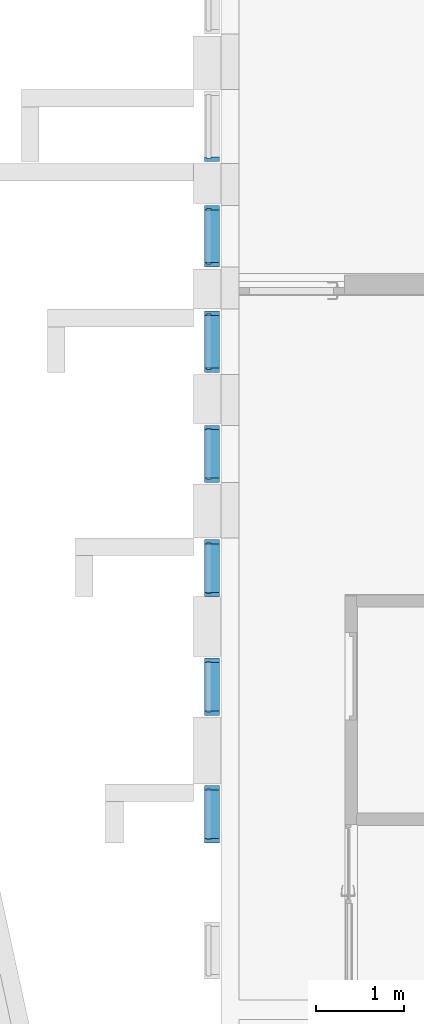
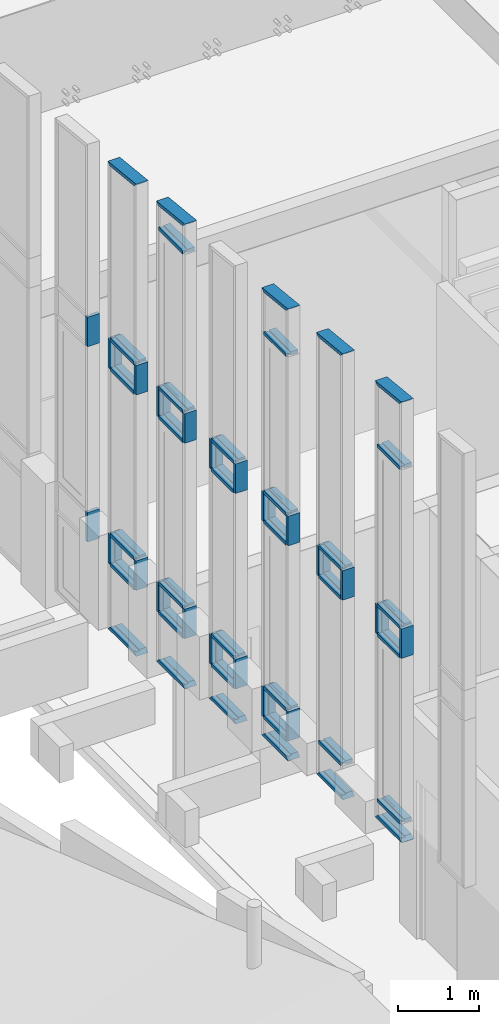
# One storey, part 34 of 246: 58 members, 7 elements without a shape of their own.
"""IFC2X3 building model written with IfcOpenShell, lengths in millimetres."""

from ifc_helpers import new_model, entity, si_unit, converted_unit, derived_unit, money_unit, direction, frame, origin_with_axes, place, context, subcontext, project, spatial, faceted_brep, source, transform, mapped, material, type_object, element, aggregate, save


model = new_model("IFC2X3")

# Units and contexts
model_context = context("Model", 3, precision=0.01, world=origin_with_axes(), true_north=direction((0.0, 1.0)))
body_context = subcontext(model_context, "Body", "Model", "MODEL_VIEW")
ifc_project = project(units=[si_unit("LENGTHUNIT", "METRE", prefix="MILLI"), si_unit("AREAUNIT", "SQUARE_METRE"), si_unit("VOLUMEUNIT", "CUBIC_METRE"), converted_unit("PLANEANGLEUNIT", "DEGREE", entity("IfcPlaneAngleMeasure", 0.0174532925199), si_unit("PLANEANGLEUNIT", "RADIAN"), dimensions=[0, 0, 0, 0, 0, 0, 0]), si_unit("SOLIDANGLEUNIT", "STERADIAN"), money_unit("EUR"), converted_unit("TIMEUNIT", "Year", entity("IfcTimeMeasure", 31556926.0), si_unit("TIMEUNIT", "SECOND"), dimensions=[0, 0, 1, 0, 0, 0, 0]), si_unit("MASSUNIT", "GRAM", prefix="KILO"), si_unit("THERMODYNAMICTEMPERATUREUNIT", "DEGREE_CELSIUS"), si_unit("LUMINOUSINTENSITYUNIT", "LUMEN"), si_unit("ENERGYUNIT", "JOULE", prefix="MEGA"), derived_unit("THERMALCONDUCTANCEUNIT", [(si_unit("POWERUNIT", "WATT"), 1), (si_unit("LENGTHUNIT", "METRE"), -1), (si_unit("THERMODYNAMICTEMPERATUREUNIT", "KELVIN"), -1)]), derived_unit("SPECIFICHEATCAPACITYUNIT", [(si_unit("ENERGYUNIT", "JOULE"), 1), (si_unit("MASSUNIT", "GRAM", prefix="KILO"), -1), (si_unit("THERMODYNAMICTEMPERATUREUNIT", "KELVIN"), -1)]), derived_unit("MASSDENSITYUNIT", [(si_unit("MASSUNIT", "GRAM", prefix="KILO"), 1), (si_unit("VOLUMEUNIT", "CUBIC_METRE"), -1)])], contexts=[model_context])

# Site, building, storey
site_placement = place(None, origin_with_axes())
site = spatial("IfcSite", under=ifc_project, at=site_placement, Name="L.Koidula tn 11b", CompositionType="ELEMENT")
building_placement = place(site_placement, origin_with_axes())
building = spatial("IfcBuilding", under=site, at=building_placement, Name="Rakvere Riigigümnaasium", CompositionType="ELEMENT")
storey_placement = place(building_placement, origin_with_axes())
storey = spatial("IfcBuildingStorey", under=building, at=storey_placement, Name="1.korrus 0,00", CompositionType="ELEMENT", Elevation=0.0)

# Curtain wall, members
curtain_wall_type = type_object("IfcCurtainWallType", Name="Curtain Wall Type", PredefinedType="NOTDEFINED")
curtain_wall_1_placement = place(storey_placement, frame((35156.0871538, 27260.4554897, 2070.0), z_axis=(0.0, 0.0, 1.0), x_axis=(1.0, 0.0, 0.0)))
curtain_wall_1 = element("IfcCurtainWall", 1, at=curtain_wall_1_placement, inside=storey, type_object=curtain_wall_type, Name="KLF-04-03")
ifc_material = material(Name="Alumiiniumprofiil (RAL 7021)")
member_type_1 = type_object("IfcMemberType", Name="Boundary Frame 50 x 170", PredefinedType="MULLION")
shared_shape_1 = source(origin_with_axes(), body_context, "Body", "Brep", [
    faceted_brep([(37.0, -26.0, 445.000001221), (37.0, 26.0, 445.000001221), (50.0, 26.0, 445.000001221), (50.0, 46.0, 445.000001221), (0.0, 46.0, 445.000001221), (0.0, -124.0, 445.000001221), (50.0, -124.0, 445.000001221), (50.0, -26.0, 445.000001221), (37.0, -26.0, -1.22099402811e-06), (37.0, 26.0, -1.22099402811e-06), (50.0, 26.0, -1.22099405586e-06), (50.0, 46.0, -1.22099405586e-06), (0.0, 46.0, -1.22099405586e-06), (0.0, -124.0, -1.22099405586e-06), (50.0, -124.0, -1.22099405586e-06), (50.0, -26.0, -1.22099405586e-06)], [[[0, 1, 2, 3, 4, 5, 6, 7]], [[1, 0, 8, 9]], [[10, 2, 1, 9]], [[2, 10, 11, 3]], [[12, 4, 3, 11]], [[13, 5, 4, 12]], [[14, 6, 5, 13]], [[15, 7, 6, 14]], [[0, 7, 15, 8]], [[8, 15, 14, 13, 12, 11, 10, 9]]]),
])
member_1_placement = place(curtain_wall_1_placement, frame((0.0, -399.999995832, 4175.00005204), z_axis=(0.0, -7.58073254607e-09, 1.0), x_axis=(0.0, 1.0, 7.58073254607e-09)))
member_1 = element("IfcMember", 2, at=member_1_placement, type_object=member_type_1, material=ifc_material, Name="KLF-04-45-Profiilid", ObjectType="MULLION", context=body_context, shape_type="MappedRepresentation", body=[
    mapped(shared_shape_1, transform((0.0, 0.0, 0.0))),
])
member_2_placement = place(curtain_wall_1_placement, frame((0.0, -399.999995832, 1230.00005204), z_axis=(0.0, 0.0, 1.0), x_axis=(0.0, 1.0, 0.0)))
member_2 = element("IfcMember", 3, at=member_2_placement, type_object=member_type_1, material=ifc_material, Name="KLF-04-43-Profiilid", ObjectType="MULLION", context=body_context, shape_type="MappedRepresentation", body=[
    mapped(shared_shape_1, transform((0.0, 0.0, 0.0))),
])
aggregate(curtain_wall_1, [member_1, member_2])

curtain_wall_2_placement = place(storey_placement, frame((35156.0871538, 22235.4555038, 3003.0), z_axis=(0.0, 0.0, 1.0), x_axis=(1.0, 0.0, 0.0)))
curtain_wall_2 = element("IfcCurtainWall", 4, at=curtain_wall_2_placement, inside=storey, type_object=curtain_wall_type, Name="KLF-04-07")
member_3_placement = place(curtain_wall_2_placement, frame((0.0, 325.000046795, 742.00007113), z_axis=(0.0, 0.0, -1.0), x_axis=(0.0, -1.0, 0.0)))
member_3 = element("IfcMember", 5, at=member_3_placement, type_object=member_type_1, material=ifc_material, Name="KLF-04-36-Profiilid", ObjectType="MULLION", context=body_context, shape_type="MappedRepresentation", body=[
    mapped(shared_shape_1, transform((0.0, 0.0, 0.0))),
])
member_4_placement = place(curtain_wall_2_placement, frame((0.0, 324.999942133, 3687.00007113), z_axis=(0.0, 0.0, -1.0), x_axis=(0.0, -1.0, 0.0)))
member_4 = element("IfcMember", 6, at=member_4_placement, type_object=member_type_1, material=ifc_material, Name="KLF-04-34-Profiilid", ObjectType="MULLION", context=body_context, shape_type="MappedRepresentation", body=[
    mapped(shared_shape_1, transform((0.0, 0.0, 0.0))),
])
member_5_placement = place(curtain_wall_2_placement, frame((0.0, -325.000024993, 3242.00007113), z_axis=(0.0, 2.27401187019e-07, 1.0), x_axis=(0.0, 1.0, -2.27401187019e-07)))
member_5 = element("IfcMember", 7, at=member_5_placement, type_object=member_type_1, material=ifc_material, Name="KLF-04-28-Profiilid", ObjectType="MULLION", context=body_context, shape_type="MappedRepresentation", body=[
    mapped(shared_shape_1, transform((0.0, 0.0, 0.0))),
])
member_6_placement = place(curtain_wall_2_placement, frame((0.0, -325.000024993, 297.00007113), z_axis=(0.0, 0.0, 1.0), x_axis=(0.0, 1.0, 0.0)))
member_6 = element("IfcMember", 8, at=member_6_placement, type_object=member_type_1, material=ifc_material, Name="KLF-04-26-Profiilid", ObjectType="MULLION", context=body_context, shape_type="MappedRepresentation", body=[
    mapped(shared_shape_1, transform((0.0, 0.0, 0.0))),
])

curtain_wall_3_placement = place(storey_placement, frame((35156.0871538, 20885.4555022, 3234.99992887), z_axis=(0.0, 0.0, 1.0), x_axis=(1.0, 0.0, 0.0)))
curtain_wall_3 = element("IfcCurtainWall", 9, at=curtain_wall_3_placement, inside=storey, type_object=curtain_wall_type, Name="KLF-04-08")
member_7_placement = place(curtain_wall_3_placement, frame((0.0, 324.999978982, 3455.00007113), z_axis=(0.0, 0.0, -1.0), x_axis=(0.0, -1.0, 0.0)))
member_7 = element("IfcMember", 10, at=member_7_placement, type_object=member_type_1, material=ifc_material, Name="KLF-04-57-Profiilid", ObjectType="MULLION", context=body_context, shape_type="MappedRepresentation", body=[
    mapped(shared_shape_1, transform((0.0, 0.0, 0.0))),
])
member_8_placement = place(curtain_wall_3_placement, frame((0.0, -325.000001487, 3010.00007113), z_axis=(0.0, 1.011452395e-07, 1.0), x_axis=(0.0, 1.0, -1.011452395e-07)))
member_8 = element("IfcMember", 11, at=member_8_placement, type_object=member_type_1, material=ifc_material, Name="KLF-04-53-Profiilid", ObjectType="MULLION", context=body_context, shape_type="MappedRepresentation", body=[
    mapped(shared_shape_1, transform((0.0, 0.0, 0.0))),
])

curtain_wall_4_placement = place(storey_placement, frame((35156.0871538, 19435.4554934, 3468.0), z_axis=(0.0, 0.0, 1.0), x_axis=(1.0, 0.0, 0.0)))
curtain_wall_4 = element("IfcCurtainWall", 12, at=curtain_wall_4_placement, inside=storey, type_object=curtain_wall_type, Name="KLF-04-09")
member_9_placement = place(curtain_wall_4_placement, frame((0.0, 325.0000746, 3222.00007113), z_axis=(0.0, 0.0, -1.0), x_axis=(0.0, -1.0, 0.0)))
member_9 = element("IfcMember", 13, at=member_9_placement, type_object=member_type_1, material=ifc_material, Name="KLF-04-07-Profiilid", ObjectType="MULLION", context=body_context, shape_type="MappedRepresentation", body=[
    mapped(shared_shape_1, transform((0.0, 0.0, 0.0))),
])
member_10_placement = place(curtain_wall_4_placement, frame((0.0, -325.000027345, 2777.00007113), z_axis=(0.0, 0.0, 1.0), x_axis=(0.0, 1.0, 0.0)))
member_10 = element("IfcMember", 14, at=member_10_placement, type_object=member_type_1, material=ifc_material, Name="KLF-04-01-Profiilid", ObjectType="MULLION", context=body_context, shape_type="MappedRepresentation", body=[
    mapped(shared_shape_1, transform((0.0, 0.0, 0.0))),
])

curtain_wall_5_placement = place(storey_placement, frame((35156.0871538, 26010.4555274, 2305.0), z_axis=(0.0, 0.0, 1.0), x_axis=(1.0, 0.0, 0.0)))
curtain_wall_5 = element("IfcCurtainWall", 15, at=curtain_wall_5_placement, inside=storey, type_object=curtain_wall_type, Name="KLF-04-04")
member_11_placement = place(curtain_wall_5_placement, frame((0.0, 349.999977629, 1440.00005204), z_axis=(0.0, 0.0, -1.0), x_axis=(0.0, -1.0, 0.0)))
member_11 = element("IfcMember", 16, at=member_11_placement, type_object=member_type_1, material=ifc_material, Name="KLF-04-64-Profiilid", ObjectType="MULLION", context=body_context, shape_type="MappedRepresentation", body=[
    mapped(shared_shape_1, transform((0.0, 0.0, 0.0))),
])
member_12_placement = place(curtain_wall_5_placement, frame((0.0, 349.999977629, 4385.00005204), z_axis=(0.0, 0.0, -1.0), x_axis=(0.0, -1.0, 0.0)))
member_12 = element("IfcMember", 17, at=member_12_placement, type_object=member_type_1, material=ifc_material, Name="KLF-04-62-Profiilid", ObjectType="MULLION", context=body_context, shape_type="MappedRepresentation", body=[
    mapped(shared_shape_1, transform((0.0, 0.0, 0.0))),
])
member_13_placement = place(curtain_wall_5_placement, frame((0.0, -349.999924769, 3940.00005204), z_axis=(0.0, 1.22352297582e-07, 1.0), x_axis=(0.0, 1.0, -1.22352297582e-07)))
member_13 = element("IfcMember", 18, at=member_13_placement, type_object=member_type_1, material=ifc_material, Name="KLF-04-58-Profiilid", ObjectType="MULLION", context=body_context, shape_type="MappedRepresentation", body=[
    mapped(shared_shape_1, transform((0.0, 0.0, 0.0))),
])
member_14_placement = place(curtain_wall_5_placement, frame((0.0, -350.00003049, 995.00005204), z_axis=(0.0, 0.0, 1.0), x_axis=(0.0, 1.0, 0.0)))
member_14 = element("IfcMember", 19, at=member_14_placement, type_object=member_type_1, material=ifc_material, Name="KLF-04-56-Profiilid", ObjectType="MULLION", context=body_context, shape_type="MappedRepresentation", body=[
    mapped(shared_shape_1, transform((0.0, 0.0, 0.0))),
])

curtain_wall_6_placement = place(storey_placement, frame((35156.0871538, 24810.4554726, 2540.0), z_axis=(0.0, 0.0, 1.0), x_axis=(1.0, 0.0, 0.0)))
curtain_wall_6 = element("IfcCurtainWall", 20, at=curtain_wall_6_placement, inside=storey, type_object=curtain_wall_type, Name="KLF-04-05")
member_15_placement = place(curtain_wall_6_placement, frame((0.0, 350.000000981, 1205.00005204), z_axis=(0.0, 0.0, -1.0), x_axis=(0.0, -1.0, 0.0)))
member_15 = element("IfcMember", 21, at=member_15_placement, type_object=member_type_1, material=ifc_material, Name="KLF-04-61-Profiilid", ObjectType="MULLION", context=body_context, shape_type="MappedRepresentation", body=[
    mapped(shared_shape_1, transform((0.0, 0.0, 0.0))),
])
member_16_placement = place(curtain_wall_6_placement, frame((0.0, 350.000000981, 4150.00005204), z_axis=(0.0, 0.0, -1.0), x_axis=(0.0, -1.0, 0.0)))
member_16 = element("IfcMember", 22, at=member_16_placement, type_object=member_type_1, material=ifc_material, Name="KLF-04-59-Profiilid", ObjectType="MULLION", context=body_context, shape_type="MappedRepresentation", body=[
    mapped(shared_shape_1, transform((0.0, 0.0, 0.0))),
])
member_17_placement = place(curtain_wall_6_placement, frame((0.0, -350.000000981, 3705.00005204), z_axis=(0.0, 0.0, 1.0), x_axis=(0.0, 1.0, 0.0)))
member_17 = element("IfcMember", 23, at=member_17_placement, type_object=member_type_1, material=ifc_material, Name="KLF-04-53-Profiilid", ObjectType="MULLION", context=body_context, shape_type="MappedRepresentation", body=[
    mapped(shared_shape_1, transform((0.0, 0.0, 0.0))),
])
member_18_placement = place(curtain_wall_6_placement, frame((0.0, -350.000000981, 760.00005204), z_axis=(0.0, 0.0, 1.0), x_axis=(0.0, 1.0, 0.0)))
member_18 = element("IfcMember", 24, at=member_18_placement, type_object=member_type_1, material=ifc_material, Name="KLF-04-51-Profiilid", ObjectType="MULLION", context=body_context, shape_type="MappedRepresentation", body=[
    mapped(shared_shape_1, transform((0.0, 0.0, 0.0))),
])

curtain_wall_7_placement = place(storey_placement, frame((35156.0871538, 23535.4555553, 2770.0), z_axis=(0.0, 0.0, 1.0), x_axis=(1.0, 0.0, 0.0)))
curtain_wall_7 = element("IfcCurtainWall", 25, at=curtain_wall_7_placement, inside=storey, type_object=curtain_wall_type, Name="KLF-04-06")
member_19_placement = place(curtain_wall_7_placement, frame((0.0, 324.999949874, 975.00005204), z_axis=(0.0, 0.0, -1.0), x_axis=(0.0, -1.0, 0.0)))
member_19 = element("IfcMember", 26, at=member_19_placement, type_object=member_type_1, material=ifc_material, Name="KLF-04-54-Profiilid", ObjectType="MULLION", context=body_context, shape_type="MappedRepresentation", body=[
    mapped(shared_shape_1, transform((0.0, 0.0, 0.0))),
])
member_20_placement = place(curtain_wall_7_placement, frame((0.0, 324.999949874, 3920.00005204), z_axis=(0.0, 0.0, -1.0), x_axis=(0.0, -1.0, 0.0)))
member_20 = element("IfcMember", 27, at=member_20_placement, type_object=member_type_1, material=ifc_material, Name="KLF-04-52-Profiilid", ObjectType="MULLION", context=body_context, shape_type="MappedRepresentation", body=[
    mapped(shared_shape_1, transform((0.0, 0.0, 0.0))),
])
member_21_placement = place(curtain_wall_7_placement, frame((0.0, -324.999949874, 3475.00005204), z_axis=(0.0, -1.01655736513e-07, 1.0), x_axis=(0.0, 1.0, 1.01655736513e-07)))
member_21 = element("IfcMember", 28, at=member_21_placement, type_object=member_type_1, material=ifc_material, Name="KLF-04-48-Profiilid", ObjectType="MULLION", context=body_context, shape_type="MappedRepresentation", body=[
    mapped(shared_shape_1, transform((0.0, 0.0, 0.0))),
])
member_22_placement = place(curtain_wall_7_placement, frame((0.0, -324.999949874, 530.00005204), z_axis=(0.0, 0.0, 1.0), x_axis=(0.0, 1.0, 0.0)))
member_22 = element("IfcMember", 29, at=member_22_placement, type_object=member_type_1, material=ifc_material, Name="KLF-04-46-Profiilid", ObjectType="MULLION", context=body_context, shape_type="MappedRepresentation", body=[
    mapped(shared_shape_1, transform((0.0, 0.0, 0.0))),
])

# Member
member_type_2 = type_object("IfcMemberType", Name="Transom Frame 50 x 170", PredefinedType="MULLION")
shared_shape_2 = source(origin_with_axes(), body_context, "Body", "Brep", [
    faceted_brep([(-12.0, -26.0, 599.999891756), (-25.0, -26.0, 599.999891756), (-25.0, -124.0, 599.999887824), (25.0, -124.0, 599.999887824), (25.0, -26.0, 599.999891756), (12.0, -26.0, 599.999891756), (12.0, 26.0, 599.999893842), (25.0, 26.0, 599.999893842), (25.0, 46.0, 599.999894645), (-25.0, 46.0, 599.999894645), (-25.0, 26.0, 599.999893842), (-12.0, 26.0, 599.999893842), (-12.0, -26.0, 50.0000002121), (-25.0, -26.0, 50.0000002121), (-25.0, -124.0, 50.0000010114), (25.0, -124.0, 50.0000010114), (25.0, -26.0, 50.0000002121), (12.0, -26.0, 50.0000002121), (12.0, 26.0, 49.9999997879), (25.0, 26.0, 49.9999997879), (25.0, 46.0, 49.9999996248), (-25.0, 46.0, 49.9999996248), (-25.0, 26.0, 49.9999997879), (-12.0, 26.0, 49.9999997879)], [[[0, 1, 2, 3, 4, 5, 6, 7, 8, 9, 10, 11]], [[1, 0, 12, 13]], [[1, 13, 14, 2]], [[2, 14, 15, 3]], [[4, 3, 15, 16]], [[4, 16, 17, 5]], [[5, 17, 18, 6]], [[7, 6, 18, 19]], [[19, 20, 8, 7]], [[8, 20, 21, 9]], [[22, 10, 9, 21]], [[11, 10, 22, 23]], [[0, 11, 23, 12]], [[23, 22, 21, 20, 19, 18, 17, 16, 15, 14, 13, 12]]]),
])
member_23_placement = place(curtain_wall_2_placement, frame((0.0, 324.999942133, 6087.00007113), z_axis=(0.0, -1.0, 0.0), x_axis=(0.0, 0.0, 1.0)))
member_23 = element("IfcMember", 30, at=member_23_placement, type_object=member_type_2, material=ifc_material, Name="KLF-04-07-Profiilid", ObjectType="MULLION", context=body_context, shape_type="MappedRepresentation", body=[
    mapped(shared_shape_2, transform((0.0, 0.0, 0.0))),
])

member_24_placement = place(curtain_wall_2_placement, frame((0.0, 324.999942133, 3687.00007113), z_axis=(0.0, -1.0, 0.0), x_axis=(0.0, 0.0, 1.0)))
member_24 = element("IfcMember", 31, at=member_24_placement, type_object=member_type_2, material=ifc_material, Name="KLF-04-07-Profiilid", ObjectType="MULLION", context=body_context, shape_type="MappedRepresentation", body=[
    mapped(shared_shape_2, transform((0.0, 0.0, 0.0))),
])

member_25_placement = place(curtain_wall_2_placement, frame((0.0, 325.000046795, 742.00007113), z_axis=(0.0, -1.0, 0.0), x_axis=(0.0, 0.0, 1.0)))
member_25 = element("IfcMember", 32, at=member_25_placement, type_object=member_type_2, material=ifc_material, Name="KLF-04-41-Profiilid", ObjectType="MULLION", context=body_context, shape_type="MappedRepresentation", body=[
    mapped(shared_shape_2, transform((0.0, 0.0, 0.0))),
])

member_26_placement = place(curtain_wall_2_placement, frame((0.0, 325.000046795, 297.00007113), z_axis=(0.0, -1.0, 0.0), x_axis=(0.0, 0.0, 1.0)))
member_26 = element("IfcMember", 33, at=member_26_placement, type_object=member_type_2, material=ifc_material, Name="KLF-04-42-Profiilid", ObjectType="MULLION", context=body_context, shape_type="MappedRepresentation", body=[
    mapped(shared_shape_2, transform((0.0, 0.0, 0.0))),
])

member_27_placement = place(curtain_wall_2_placement, frame((0.0, 324.999942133, 3242.00007113), z_axis=(0.0, -1.0, 0.0), x_axis=(0.0, 0.0, 1.0)))
member_27 = element("IfcMember", 34, at=member_27_placement, type_object=member_type_2, material=ifc_material, Name="KLF-04-10-Profiilid", ObjectType="MULLION", context=body_context, shape_type="MappedRepresentation", body=[
    mapped(shared_shape_2, transform((0.0, 0.0, 0.0))),
])

member_28_placement = place(curtain_wall_3_placement, frame((0.0, 324.999978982, 3455.00007113), z_axis=(0.0, -1.0, 0.0), x_axis=(0.0, 0.0, 1.0)))
member_28 = element("IfcMember", 35, at=member_28_placement, type_object=member_type_2, material=ifc_material, Name="KLF-04-08-Profiilid", ObjectType="MULLION", context=body_context, shape_type="MappedRepresentation", body=[
    mapped(shared_shape_2, transform((0.0, 0.0, 0.0))),
])

member_29_placement = place(curtain_wall_3_placement, frame((0.0, 324.999978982, 3010.00007113), z_axis=(0.0, -1.0, 0.0), x_axis=(0.0, 0.0, 1.0)))
member_29 = element("IfcMember", 36, at=member_29_placement, type_object=member_type_2, material=ifc_material, Name="KLF-04-08-Profiilid", ObjectType="MULLION", context=body_context, shape_type="MappedRepresentation", body=[
    mapped(shared_shape_2, transform((0.0, 0.0, 0.0))),
])

member_30_placement = place(curtain_wall_3_placement, frame((0.0, 324.999978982, 510.00007113), z_axis=(0.0, -1.0, 0.0), x_axis=(0.0, 0.0, 1.0)))
member_30 = element("IfcMember", 37, at=member_30_placement, type_object=member_type_2, material=ifc_material, Name="KLF-04-08-Profiilid", ObjectType="MULLION", context=body_context, shape_type="MappedRepresentation", body=[
    mapped(shared_shape_2, transform((0.0, 0.0, 0.0))),
])

member_31_placement = place(curtain_wall_4_placement, frame((0.0, 325.0000746, 5622.00007113), z_axis=(0.0, -1.0, 0.0), x_axis=(0.0, 0.0, 1.0)))
member_31 = element("IfcMember", 38, at=member_31_placement, type_object=member_type_2, material=ifc_material, Name="KLF-04-09-Profiilid", ObjectType="MULLION", context=body_context, shape_type="MappedRepresentation", body=[
    mapped(shared_shape_2, transform((0.0, 0.0, 0.0))),
])

member_32_placement = place(curtain_wall_4_placement, frame((0.0, 325.0000746, 2777.00007113), z_axis=(0.0, -1.0, 0.0), x_axis=(0.0, 0.0, 1.0)))
member_32 = element("IfcMember", 39, at=member_32_placement, type_object=member_type_2, material=ifc_material, Name="KLF-04-09-Profiilid", ObjectType="MULLION", context=body_context, shape_type="MappedRepresentation", body=[
    mapped(shared_shape_2, transform((0.0, 0.0, 0.0))),
])

member_33_placement = place(curtain_wall_4_placement, frame((0.0, 325.0000746, 277.00007113), z_axis=(0.0, -1.0, 0.0), x_axis=(0.0, 0.0, 1.0)))
member_33 = element("IfcMember", 40, at=member_33_placement, type_object=member_type_2, material=ifc_material, Name="KLF-04-09-Profiilid", ObjectType="MULLION", context=body_context, shape_type="MappedRepresentation", body=[
    mapped(shared_shape_2, transform((0.0, 0.0, 0.0))),
])

member_34_placement = place(curtain_wall_4_placement, frame((0.0, 325.0000746, 3222.00007113), z_axis=(0.0, -1.0, 0.0), x_axis=(0.0, 0.0, 1.0)))
member_34 = element("IfcMember", 41, at=member_34_placement, type_object=member_type_2, material=ifc_material, Name="KLF-04-76-Profiilid", ObjectType="MULLION", context=body_context, shape_type="MappedRepresentation", body=[
    mapped(shared_shape_2, transform((0.0, 0.0, 0.0))),
])

member_35_placement = place(curtain_wall_7_placement, frame((0.0, 324.999949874, 3920.00005204), z_axis=(0.0, -1.0, 0.0), x_axis=(0.0, 0.0, 1.0)))
member_35 = element("IfcMember", 42, at=member_35_placement, type_object=member_type_2, material=ifc_material, Name="KLF-04-06-Profiilid", ObjectType="MULLION", context=body_context, shape_type="MappedRepresentation", body=[
    mapped(shared_shape_2, transform((0.0, 0.0, 0.0))),
])

member_36_placement = place(curtain_wall_7_placement, frame((0.0, 324.999949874, 975.00005204), z_axis=(0.0, -1.0, 0.0), x_axis=(0.0, 0.0, 1.0)))
member_36 = element("IfcMember", 43, at=member_36_placement, type_object=member_type_2, material=ifc_material, Name="KLF-04-06-Profiilid", ObjectType="MULLION", context=body_context, shape_type="MappedRepresentation", body=[
    mapped(shared_shape_2, transform((0.0, 0.0, 0.0))),
])

member_37_placement = place(curtain_wall_7_placement, frame((0.0, 324.999949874, 530.00005204), z_axis=(0.0, -1.0, 0.0), x_axis=(0.0, 0.0, 1.0)))
member_37 = element("IfcMember", 44, at=member_37_placement, type_object=member_type_2, material=ifc_material, Name="KLF-04-06-Profiilid", ObjectType="MULLION", context=body_context, shape_type="MappedRepresentation", body=[
    mapped(shared_shape_2, transform((0.0, 0.0, 0.0))),
])

member_38_placement = place(curtain_wall_7_placement, frame((0.0, 324.999949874, 3475.00005204), z_axis=(0.0, -1.0, 0.0), x_axis=(0.0, 0.0, 1.0)))
member_38 = element("IfcMember", 45, at=member_38_placement, type_object=member_type_2, material=ifc_material, Name="KLF-04-29-Profiilid", ObjectType="MULLION", context=body_context, shape_type="MappedRepresentation", body=[
    mapped(shared_shape_2, transform((0.0, 0.0, 0.0))),
])

shared_shape_3 = source(origin_with_axes(), body_context, "Body", "Brep", [
    faceted_brep([(-12.0, -26.0, 649.99984477), (-25.0, -26.0, 649.99984477), (-25.0, -124.0, 649.999832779), (25.0, -124.0, 649.999832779), (25.0, -26.0, 649.99984477), (12.0, -26.0, 649.99984477), (12.0, 26.0, 649.999851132), (25.0, 26.0, 649.999851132), (25.0, 46.0, 649.999853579), (-25.0, 46.0, 649.999853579), (-25.0, 26.0, 649.999851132), (-12.0, 26.0, 649.999851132), (-12.0, -26.0, 50.0), (-25.0, -26.0, 50.0), (-25.0, -124.0, 50.0), (25.0, -124.0, 50.0), (25.0, -26.0, 50.0), (12.0, -26.0, 50.0), (12.0, 26.0, 50.0), (25.0, 26.0, 50.0), (25.0, 46.0, 50.0), (-25.0, 46.0, 50.0), (-25.0, 26.0, 50.0), (-12.0, 26.0, 50.0)], [[[0, 1, 2, 3, 4, 5, 6, 7, 8, 9, 10, 11]], [[1, 0, 12, 13]], [[1, 13, 14, 2]], [[2, 14, 15, 3]], [[4, 3, 15, 16]], [[4, 16, 17, 5]], [[5, 17, 18, 6]], [[7, 6, 18, 19]], [[19, 20, 8, 7]], [[8, 20, 21, 9]], [[22, 10, 9, 21]], [[11, 10, 22, 23]], [[0, 11, 23, 12]], [[23, 22, 21, 20, 19, 18, 17, 16, 15, 14, 13, 12]]]),
])
member_39_placement = place(curtain_wall_5_placement, frame((0.0, 349.999977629, 4385.00005204), z_axis=(0.0, -1.0, 0.0), x_axis=(0.0, 0.0, 1.0)))
member_39 = element("IfcMember", 46, at=member_39_placement, type_object=member_type_2, material=ifc_material, Name="KLF-04-04-Profiilid", ObjectType="MULLION", context=body_context, shape_type="MappedRepresentation", body=[
    mapped(shared_shape_3, transform((0.0, 0.0, 0.0))),
])

member_40_placement = place(curtain_wall_5_placement, frame((0.0, 349.999977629, 995.00005204), z_axis=(0.0, -1.0, 0.0), x_axis=(0.0, 0.0, 1.0)))
member_40 = element("IfcMember", 47, at=member_40_placement, type_object=member_type_2, material=ifc_material, Name="KLF-04-17-Profiilid", ObjectType="MULLION", context=body_context, shape_type="MappedRepresentation", body=[
    mapped(shared_shape_3, transform((0.0, 0.0, 0.0))),
])

member_41_placement = place(curtain_wall_5_placement, frame((0.0, 349.999977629, 3940.00005204), z_axis=(0.0, -1.0, 0.0), x_axis=(0.0, 0.0, 1.0)))
member_41 = element("IfcMember", 48, at=member_41_placement, type_object=member_type_2, material=ifc_material, Name="KLF-04-42-Profiilid", ObjectType="MULLION", context=body_context, shape_type="MappedRepresentation", body=[
    mapped(shared_shape_3, transform((0.0, 0.0, 0.0))),
])

member_42_placement = place(curtain_wall_5_placement, frame((0.0, 349.999977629, 1440.00005204), z_axis=(0.0, -1.0, 0.0), x_axis=(0.0, 0.0, 1.0)))
member_42 = element("IfcMember", 49, at=member_42_placement, type_object=member_type_2, material=ifc_material, Name="KLF-04-43-Profiilid", ObjectType="MULLION", context=body_context, shape_type="MappedRepresentation", body=[
    mapped(shared_shape_3, transform((0.0, 0.0, 0.0))),
])

member_43_placement = place(curtain_wall_6_placement, frame((0.0, 350.000000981, 6550.00005204), z_axis=(0.0, -1.0, 0.0), x_axis=(0.0, 0.0, 1.0)))
member_43 = element("IfcMember", 50, at=member_43_placement, type_object=member_type_2, material=ifc_material, Name="KLF-04-05-Profiilid", ObjectType="MULLION", context=body_context, shape_type="MappedRepresentation", body=[
    mapped(shared_shape_3, transform((0.0, 0.0, 0.0))),
])

member_44_placement = place(curtain_wall_6_placement, frame((0.0, 350.000000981, 4150.00005204), z_axis=(0.0, -1.0, 0.0), x_axis=(0.0, 0.0, 1.0)))
member_44 = element("IfcMember", 51, at=member_44_placement, type_object=member_type_2, material=ifc_material, Name="KLF-04-05-Profiilid", ObjectType="MULLION", context=body_context, shape_type="MappedRepresentation", body=[
    mapped(shared_shape_3, transform((0.0, 0.0, 0.0))),
])

member_45_placement = place(curtain_wall_6_placement, frame((0.0, 350.000000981, 1205.00005204), z_axis=(0.0, -1.0, 0.0), x_axis=(0.0, 0.0, 1.0)))
member_45 = element("IfcMember", 52, at=member_45_placement, type_object=member_type_2, material=ifc_material, Name="KLF-04-05-Profiilid", ObjectType="MULLION", context=body_context, shape_type="MappedRepresentation", body=[
    mapped(shared_shape_3, transform((0.0, 0.0, 0.0))),
])

member_46_placement = place(curtain_wall_6_placement, frame((0.0, 350.000000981, 760.00005204), z_axis=(0.0, -1.0, 0.0), x_axis=(0.0, 0.0, 1.0)))
member_46 = element("IfcMember", 53, at=member_46_placement, type_object=member_type_2, material=ifc_material, Name="KLF-04-05-Profiilid", ObjectType="MULLION", context=body_context, shape_type="MappedRepresentation", body=[
    mapped(shared_shape_3, transform((0.0, 0.0, 0.0))),
])

member_47_placement = place(curtain_wall_6_placement, frame((0.0, 350.000000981, 3705.00005204), z_axis=(0.0, -1.0, 0.0), x_axis=(0.0, 0.0, 1.0)))
member_47 = element("IfcMember", 54, at=member_47_placement, type_object=member_type_2, material=ifc_material, Name="KLF-04-33-Profiilid", ObjectType="MULLION", context=body_context, shape_type="MappedRepresentation", body=[
    mapped(shared_shape_3, transform((0.0, 0.0, 0.0))),
])

shared_shape_4 = source(origin_with_axes(), body_context, "Body", "Brep", [
    faceted_brep([(37.0, -26.0, 613.000008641), (37.0, 26.0, 613.000008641), (50.0, 26.0, 600.000008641), (50.0, 46.0, 600.000008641), (0.0, 46.0, 650.000008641), (0.0, -124.0, 650.000008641), (50.0, -124.0, 600.000008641), (50.0, -26.0, 600.000008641), (37.0, -26.0, 37.00000143), (37.0, 26.0, 37.00000143), (50.0, 26.0, 50.0000019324), (50.0, 46.0, 50.0000019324), (0.0, 46.0, 0.0), (0.0, -124.0, 0.0), (50.0, -124.0, 50.0000019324), (50.0, -26.0, 50.0000019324)], [[[0, 1, 2, 3, 4, 5, 6, 7]], [[1, 0, 8, 9]], [[10, 2, 1, 9]], [[2, 10, 11, 3]], [[4, 3, 11, 12]], [[5, 4, 12, 13]], [[6, 5, 13, 14]], [[15, 7, 6, 14]], [[0, 7, 15, 8]], [[8, 15, 14, 13, 12, 11, 10, 9]]]),
])
member_48_placement = place(curtain_wall_2_placement, frame((0.0, 325.00000319, 0.0), z_axis=(0.0, -1.0, 0.0), x_axis=(0.0, 0.0, 1.0)))
member_48 = element("IfcMember", 55, at=member_48_placement, type_object=member_type_1, material=ifc_material, Name="KLF-04-24-Profiilid", ObjectType="MULLION", context=body_context, shape_type="MappedRepresentation", body=[
    mapped(shared_shape_4, transform((0.0, 0.0, 0.0))),
])

member_49_placement = place(curtain_wall_3_placement, frame((0.0, 324.999978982, 0.0), z_axis=(0.0, -1.0, 0.0), x_axis=(0.0, 0.0, 1.0)))
member_49 = element("IfcMember", 56, at=member_49_placement, type_object=member_type_1, material=ifc_material, Name="KLF-04-50-Profiilid", ObjectType="MULLION", context=body_context, shape_type="MappedRepresentation", body=[
    mapped(shared_shape_4, transform((0.0, 0.0, 0.0))),
])

member_50_placement = place(curtain_wall_4_placement, frame((0.0, 325.0000746, 0.0), z_axis=(0.0, -1.0, 0.0), x_axis=(0.0, 0.0, 1.0)))
member_50 = element("IfcMember", 57, at=member_50_placement, type_object=member_type_1, material=ifc_material, Name="KLF-04-98-Profiilid", ObjectType="MULLION", context=body_context, shape_type="MappedRepresentation", body=[
    mapped(shared_shape_4, transform((0.0, 0.0, 0.0))),
])

member_51_placement = place(curtain_wall_7_placement, frame((0.0, 324.999949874, 0.0), z_axis=(0.0, -1.0, 0.0), x_axis=(0.0, 0.0, 1.0)))
member_51 = element("IfcMember", 58, at=member_51_placement, type_object=member_type_1, material=ifc_material, Name="KLF-04-44-Profiilid", ObjectType="MULLION", context=body_context, shape_type="MappedRepresentation", body=[
    mapped(shared_shape_4, transform((0.0, 0.0, 0.0))),
])

aggregate(curtain_wall_7, [member_19, member_20, member_35, member_36, member_37, member_51, member_21, member_38, member_22])

shared_shape_5 = source(origin_with_axes(), body_context, "Body", "Brep", [
    faceted_brep([(37.0, -26.0, 620.265353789), (37.0, 26.0, 620.265353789), (50.0, 26.0, 608.560101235), (50.0, 46.0, 608.560101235), (0.0, 46.0, 653.580303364), (0.0, -124.0, 653.580303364), (50.0, -124.0, 608.560101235), (50.0, -26.0, 608.560101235), (37.0, -26.0, 41.0926634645), (37.0, 26.0, 41.0926634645), (50.0, 26.0, 55.5306263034), (50.0, 46.0, 55.5306263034), (0.0, 46.0, 0.0), (0.0, -124.0, 0.0), (50.0, -124.0, 55.5306263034), (50.0, -26.0, 55.5306263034)], [[[0, 1, 2, 3, 4, 5, 6, 7]], [[1, 0, 8, 9]], [[10, 2, 1, 9]], [[2, 10, 11, 3]], [[4, 3, 11, 12]], [[5, 4, 12, 13]], [[6, 5, 13, 14]], [[15, 7, 6, 14]], [[0, 7, 15, 8]], [[8, 15, 14, 13, 12, 11, 10, 9]]]),
])
member_52_placement = place(curtain_wall_2_placement, frame((0.0, -324.999882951, 6813.18842037), z_axis=(0.0, 0.994521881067, -0.104528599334), x_axis=(0.0, -0.104528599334, -0.994521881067)))
member_52 = element("IfcMember", 59, at=member_52_placement, type_object=member_type_1, material=ifc_material, Name="KLF-04-31-Profiilid", ObjectType="MULLION", context=body_context, shape_type="MappedRepresentation", body=[
    mapped(shared_shape_5, transform((0.0, 0.0, 0.0))),
])

aggregate(curtain_wall_2, [member_48, member_23, member_24, member_3, member_4, member_25, member_26, member_5, member_27, member_6, member_52])

member_53_placement = place(curtain_wall_3_placement, frame((0.0, -324.999623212, 6723.07916011), z_axis=(0.0, 0.994521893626, -0.104528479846), x_axis=(0.0, -0.104528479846, -0.994521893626)))
member_53 = element("IfcMember", 60, at=member_53_placement, type_object=member_type_1, material=ifc_material, Name="KLF-04-55-Profiilid", ObjectType="MULLION", context=body_context, shape_type="MappedRepresentation", body=[
    mapped(shared_shape_5, transform((0.0, 0.0, 0.0))),
])

aggregate(curtain_wall_3, [member_28, member_29, member_30, member_7, member_49, member_8, member_53])

member_54_placement = place(curtain_wall_4_placement, frame((0.0, -325.000046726, 6642.4803079), z_axis=(0.0, 0.994521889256, -0.104528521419), x_axis=(0.0, -0.104528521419, -0.994521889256)))
member_54 = element("IfcMember", 61, at=member_54_placement, type_object=member_type_1, material=ifc_material, Name="KLF-04-04-Profiilid", ObjectType="MULLION", context=body_context, shape_type="MappedRepresentation", body=[
    mapped(shared_shape_5, transform((0.0, 0.0, 0.0))),
])

aggregate(curtain_wall_4, [member_9, member_31, member_32, member_33, member_50, member_34, member_10, member_54])

shared_shape_6 = source(origin_with_axes(), body_context, "Body", "Brep", [
    faceted_brep([(37.0, -26.0, 663.000008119), (37.0, 26.0, 663.000008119), (50.0, 26.0, 650.000008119), (50.0, 46.0, 650.000008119), (0.0, 46.0, 700.000008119), (0.0, -124.0, 700.000008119), (50.0, -124.0, 650.000008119), (50.0, -26.0, 650.000008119), (37.0, -26.0, 37.0), (37.0, 26.0, 37.0), (50.0, 26.0, 50.0), (50.0, 46.0, 50.0), (0.0, 46.0, 0.0), (0.0, -124.0, 0.0), (50.0, -124.0, 50.0), (50.0, -26.0, 50.0)], [[[0, 1, 2, 3, 4, 5, 6, 7]], [[1, 0, 8, 9]], [[10, 2, 1, 9]], [[2, 10, 11, 3]], [[4, 3, 11, 12]], [[5, 4, 12, 13]], [[6, 5, 13, 14]], [[15, 7, 6, 14]], [[0, 7, 15, 8]], [[8, 15, 14, 13, 12, 11, 10, 9]]]),
])
member_55_placement = place(curtain_wall_5_placement, frame((0.0, 349.999977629, 0.0), z_axis=(0.0, -1.0, 0.0), x_axis=(0.0, 0.0, 1.0)))
member_55 = element("IfcMember", 62, at=member_55_placement, type_object=member_type_1, material=ifc_material, Name="KLF-04-54-Profiilid", ObjectType="MULLION", context=body_context, shape_type="MappedRepresentation", body=[
    mapped(shared_shape_6, transform((0.0, 0.0, 0.0))),
])

member_56_placement = place(curtain_wall_6_placement, frame((0.0, 350.000000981, 0.0), z_axis=(0.0, -1.0, 0.0), x_axis=(0.0, 0.0, 1.0)))
member_56 = element("IfcMember", 63, at=member_56_placement, type_object=member_type_1, material=ifc_material, Name="KLF-04-49-Profiilid", ObjectType="MULLION", context=body_context, shape_type="MappedRepresentation", body=[
    mapped(shared_shape_6, transform((0.0, 0.0, 0.0))),
])

shared_shape_7 = source(origin_with_axes(), body_context, "Body", "Brep", [
    faceted_brep([(37.0, -26.0, 670.540311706), (37.0, 26.0, 670.540311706), (50.0, 26.0, 658.83505922), (50.0, 46.0, 658.83505922), (0.0, 46.0, 703.855261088), (0.0, -124.0, 703.855261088), (50.0, -124.0, 658.83505922), (50.0, -26.0, 658.83505922), (37.0, -26.0, 41.0926576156), (37.0, 26.0, 41.0926576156), (50.0, 26.0, 55.5306183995), (50.0, 46.0, 55.5306183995), (0.0, 46.0, 0.0), (0.0, -124.0, 0.0), (50.0, -124.0, 55.5306183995), (50.0, -26.0, 55.5306183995)], [[[0, 1, 2, 3, 4, 5, 6, 7]], [[1, 0, 8, 9]], [[10, 2, 1, 9]], [[2, 10, 11, 3]], [[4, 3, 11, 12]], [[5, 4, 12, 13]], [[6, 5, 13, 14]], [[15, 7, 6, 14]], [[0, 7, 15, 8]], [[8, 15, 14, 13, 12, 11, 10, 9]]]),
])
member_57_placement = place(curtain_wall_5_placement, frame((0.0, -349.999495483, 7117.04742454), z_axis=(0.0, 0.994521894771, -0.104528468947), x_axis=(0.0, -0.104528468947, -0.994521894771)))
member_57 = element("IfcMember", 64, at=member_57_placement, type_object=member_type_1, material=ifc_material, Name="KLF-04-60-Profiilid", ObjectType="MULLION", context=body_context, shape_type="MappedRepresentation", body=[
    mapped(shared_shape_7, transform((0.0, 0.0, 0.0))),
])

aggregate(curtain_wall_5, [member_39, member_55, member_40, member_11, member_12, member_13, member_41, member_42, member_14, member_57])

member_58_placement = place(curtain_wall_6_placement, frame((0.0, -349.999983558, 7008.1725986), z_axis=(0.0, 0.994521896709, -0.104528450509), x_axis=(0.0, -0.104528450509, -0.994521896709)))
member_58 = element("IfcMember", 65, at=member_58_placement, type_object=member_type_1, material=ifc_material, Name="KLF-04-56-Profiilid", ObjectType="MULLION", context=body_context, shape_type="MappedRepresentation", body=[
    mapped(shared_shape_7, transform((0.0, 0.0, 0.0))),
])

aggregate(curtain_wall_6, [member_15, member_16, member_43, member_44, member_45, member_46, member_56, member_17, member_47, member_18, member_58])

save(model, "model.ifc")
